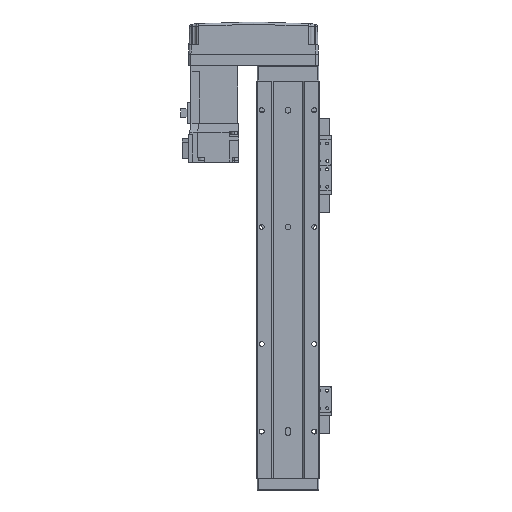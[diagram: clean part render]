
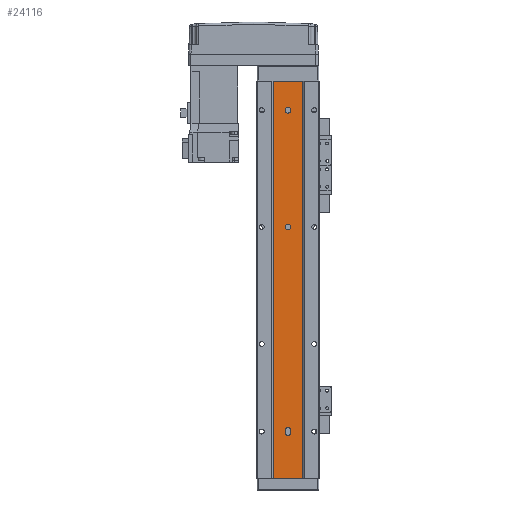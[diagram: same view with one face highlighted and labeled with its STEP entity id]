
A CAD part, front view. The second image highlights one B-rep face of the part: STEP entity #24116.
In plain terms, the highlighted planar face has unit normal (0, -1, 0).
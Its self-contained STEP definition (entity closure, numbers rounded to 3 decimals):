
#434 = EDGE_LOOP ( 'NONE', ( #35465, #584, #30485, #17683 ) ) ;
#435 = CARTESIAN_POINT ( 'NONE',  ( 12.293, 1.5, -340. ) ) ;
#584 = ORIENTED_EDGE ( 'NONE', *, *, #30012, .F. ) ;
#1216 = DIRECTION ( 'NONE',  ( 0., -1., 0. ) ) ;
#1513 = CIRCLE ( 'NONE', #32508, 2.5 ) ;
#2449 = CARTESIAN_POINT ( 'NONE',  ( -2.5, 1.5, -25. ) ) ;
#2561 = EDGE_LOOP ( 'NONE', ( #16196, #37797, #27231, #7013 ) ) ;
#3054 = AXIS2_PLACEMENT_3D ( 'NONE', #27865, #32672, #15990 ) ;
#3300 = DIRECTION ( 'NONE',  ( 0., -1., 0. ) ) ;
#3363 = LINE ( 'NONE', #5384, #30283 ) ;
#3375 = DIRECTION ( 'NONE',  ( 1., 0., 0. ) ) ;
#3389 = VERTEX_POINT ( 'NONE', #17786 ) ;
#3718 = VERTEX_POINT ( 'NONE', #31149 ) ;
#4175 = CARTESIAN_POINT ( 'NONE',  ( 2.5, 1.5, -25. ) ) ;
#4397 = VERTEX_POINT ( 'NONE', #33967 ) ;
#4858 = CARTESIAN_POINT ( 'NONE',  ( 12.293, 1.5, -340. ) ) ;
#5384 = CARTESIAN_POINT ( 'NONE',  ( -12.293, 1.5, -340. ) ) ;
#5822 = FACE_BOUND ( 'NONE', #26775, .T. ) ;
#6078 = LINE ( 'NONE', #24074, #32083 ) ;
#6283 = FACE_BOUND ( 'NONE', #8042, .T. ) ;
#6362 = VERTEX_POINT ( 'NONE', #29496 ) ;
#7013 = ORIENTED_EDGE ( 'NONE', *, *, #17261, .F. ) ;
#7312 = VERTEX_POINT ( 'NONE', #13198 ) ;
#7796 = DIRECTION ( 'NONE',  ( 1., 0., 0. ) ) ;
#8042 = EDGE_LOOP ( 'NONE', ( #12483, #19042 ) ) ;
#8616 = DIRECTION ( 'NONE',  ( 1., 0., 0. ) ) ;
#8817 = LINE ( 'NONE', #30814, #11582 ) ;
#9197 = CARTESIAN_POINT ( 'NONE',  ( -2.5, 1.5, -299. ) ) ;
#9501 = CARTESIAN_POINT ( 'NONE',  ( -2.5, 1.5, -125. ) ) ;
#9732 = CIRCLE ( 'NONE', #22693, 2.5 ) ;
#9780 = AXIS2_PLACEMENT_3D ( 'NONE', #14270, #23322, #8616 ) ;
#10603 = VERTEX_POINT ( 'NONE', #4175 ) ;
#10725 = EDGE_CURVE ( 'NONE', #29980, #30186, #14945, .T. ) ;
#11315 = ORIENTED_EDGE ( 'NONE', *, *, #17399, .F. ) ;
#11341 = AXIS2_PLACEMENT_3D ( 'NONE', #20561, #3300, #32348 ) ;
#11467 = VECTOR ( 'NONE', #7796, 1000. ) ;
#11582 = VECTOR ( 'NONE', #16281, 1000. ) ;
#11779 = FACE_BOUND ( 'NONE', #2561, .T. ) ;
#11822 = DIRECTION ( 'NONE',  ( 0., -1., 0. ) ) ;
#12038 = DIRECTION ( 'NONE',  ( 0., -1., 0. ) ) ;
#12483 = ORIENTED_EDGE ( 'NONE', *, *, #29526, .F. ) ;
#12702 = VECTOR ( 'NONE', #17944, 1000. ) ;
#12901 = EDGE_CURVE ( 'NONE', #3718, #3389, #16974, .T. ) ;
#13198 = CARTESIAN_POINT ( 'NONE',  ( 12.293, 1.5, 0. ) ) ;
#13301 = LINE ( 'NONE', #4858, #11467 ) ;
#14227 = VERTEX_POINT ( 'NONE', #2449 ) ;
#14270 = CARTESIAN_POINT ( 'NONE',  ( 0., 1.5, -299. ) ) ;
#14844 = AXIS2_PLACEMENT_3D ( 'NONE', #29308, #11822, #35254 ) ;
#14945 = CIRCLE ( 'NONE', #9780, 2.5 ) ;
#15990 = DIRECTION ( 'NONE',  ( 1., 0., 0. ) ) ;
#16196 = ORIENTED_EDGE ( 'NONE', *, *, #12901, .F. ) ;
#16281 = DIRECTION ( 'NONE',  ( 0., 0., 1. ) ) ;
#16501 = AXIS2_PLACEMENT_3D ( 'NONE', #19085, #1216, #28503 ) ;
#16816 = LINE ( 'NONE', #17816, #12702 ) ;
#16882 = CARTESIAN_POINT ( 'NONE',  ( 2.5, 1.5, -299. ) ) ;
#16974 = CIRCLE ( 'NONE', #16501, 2.5 ) ;
#17020 = DIRECTION ( 'NONE',  ( 1., 0., 0. ) ) ;
#17261 = EDGE_CURVE ( 'NONE', #3389, #29980, #8817, .T. ) ;
#17399 = EDGE_CURVE ( 'NONE', #29745, #6362, #1513, .T. ) ;
#17683 = ORIENTED_EDGE ( 'NONE', *, *, #29525, .T. ) ;
#17786 = CARTESIAN_POINT ( 'NONE',  ( 2.5, 1.5, -301. ) ) ;
#17816 = CARTESIAN_POINT ( 'NONE',  ( 12.293, 1.5, 0. ) ) ;
#17944 = DIRECTION ( 'NONE',  ( 1., 0., 0. ) ) ;
#18293 = CARTESIAN_POINT ( 'NONE',  ( 0., 1.5, -25. ) ) ;
#18853 = ORIENTED_EDGE ( 'NONE', *, *, #37752, .F. ) ;
#19042 = ORIENTED_EDGE ( 'NONE', *, *, #27841, .F. ) ;
#19085 = CARTESIAN_POINT ( 'NONE',  ( 0., 1.5, -301. ) ) ;
#20561 = CARTESIAN_POINT ( 'NONE',  ( 0., 1.5, -125. ) ) ;
#21884 = CARTESIAN_POINT ( 'NONE',  ( -2.5, 1.5, -340. ) ) ;
#22693 = AXIS2_PLACEMENT_3D ( 'NONE', #18293, #12038, #3375 ) ;
#23322 = DIRECTION ( 'NONE',  ( 0., -1., 0. ) ) ;
#24074 = CARTESIAN_POINT ( 'NONE',  ( 12.293, 1.5, -340. ) ) ;
#24116 = ADVANCED_FACE ( 'NONE', ( #11779, #5822, #6283, #36373 ), #29506, .T. ) ;
#26775 = EDGE_LOOP ( 'NONE', ( #18853, #11315 ) ) ;
#27110 = EDGE_CURVE ( 'NONE', #27249, #30243, #13301, .T. ) ;
#27231 = ORIENTED_EDGE ( 'NONE', *, *, #10725, .F. ) ;
#27249 = VERTEX_POINT ( 'NONE', #29482 ) ;
#27290 = LINE ( 'NONE', #21884, #35010 ) ;
#27841 = EDGE_CURVE ( 'NONE', #14227, #10603, #32305, .T. ) ;
#27846 = EDGE_CURVE ( 'NONE', #4397, #7312, #16816, .T. ) ;
#27865 = CARTESIAN_POINT ( 'NONE',  ( 12.293, 1.5, -340. ) ) ;
#28174 = EDGE_CURVE ( 'NONE', #30186, #3718, #27290, .T. ) ;
#28503 = DIRECTION ( 'NONE',  ( 1., 0., 0. ) ) ;
#28906 = CARTESIAN_POINT ( 'NONE',  ( 0., 1.5, -125. ) ) ;
#29308 = CARTESIAN_POINT ( 'NONE',  ( 0., 1.5, -25. ) ) ;
#29482 = CARTESIAN_POINT ( 'NONE',  ( -12.293, 1.5, -340. ) ) ;
#29496 = CARTESIAN_POINT ( 'NONE',  ( 2.5, 1.5, -125. ) ) ;
#29506 = PLANE ( 'NONE',  #3054 ) ;
#29525 = EDGE_CURVE ( 'NONE', #30243, #7312, #6078, .T. ) ;
#29526 = EDGE_CURVE ( 'NONE', #10603, #14227, #9732, .T. ) ;
#29745 = VERTEX_POINT ( 'NONE', #9501 ) ;
#29980 = VERTEX_POINT ( 'NONE', #16882 ) ;
#30012 = EDGE_CURVE ( 'NONE', #27249, #4397, #3363, .T. ) ;
#30186 = VERTEX_POINT ( 'NONE', #9197 ) ;
#30243 = VERTEX_POINT ( 'NONE', #435 ) ;
#30283 = VECTOR ( 'NONE', #31285, 1000. ) ;
#30294 = DIRECTION ( 'NONE',  ( 0., 0., -1. ) ) ;
#30485 = ORIENTED_EDGE ( 'NONE', *, *, #27110, .T. ) ;
#30814 = CARTESIAN_POINT ( 'NONE',  ( 2.5, 1.5, -340. ) ) ;
#31149 = CARTESIAN_POINT ( 'NONE',  ( -2.5, 1.5, -301. ) ) ;
#31285 = DIRECTION ( 'NONE',  ( 0., 0., 1. ) ) ;
#31542 = DIRECTION ( 'NONE',  ( 0., -1., 0. ) ) ;
#32083 = VECTOR ( 'NONE', #32543, 1000. ) ;
#32305 = CIRCLE ( 'NONE', #14844, 2.5 ) ;
#32348 = DIRECTION ( 'NONE',  ( 1., 0., 0. ) ) ;
#32508 = AXIS2_PLACEMENT_3D ( 'NONE', #28906, #31542, #17020 ) ;
#32543 = DIRECTION ( 'NONE',  ( 0., 0., 1. ) ) ;
#32672 = DIRECTION ( 'NONE',  ( 0., -1., 0. ) ) ;
#33967 = CARTESIAN_POINT ( 'NONE',  ( -12.293, 1.5, 0. ) ) ;
#35010 = VECTOR ( 'NONE', #30294, 1000. ) ;
#35254 = DIRECTION ( 'NONE',  ( 1., 0., 0. ) ) ;
#35465 = ORIENTED_EDGE ( 'NONE', *, *, #27846, .F. ) ;
#36373 = FACE_OUTER_BOUND ( 'NONE', #434, .T. ) ;
#37156 = CIRCLE ( 'NONE', #11341, 2.5 ) ;
#37752 = EDGE_CURVE ( 'NONE', #6362, #29745, #37156, .T. ) ;
#37797 = ORIENTED_EDGE ( 'NONE', *, *, #28174, .F. ) ;
